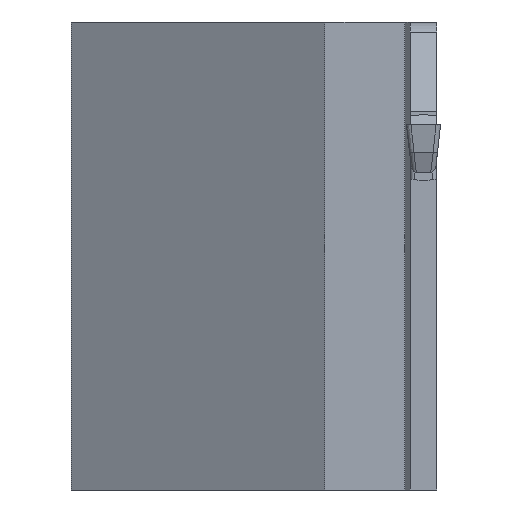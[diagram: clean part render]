
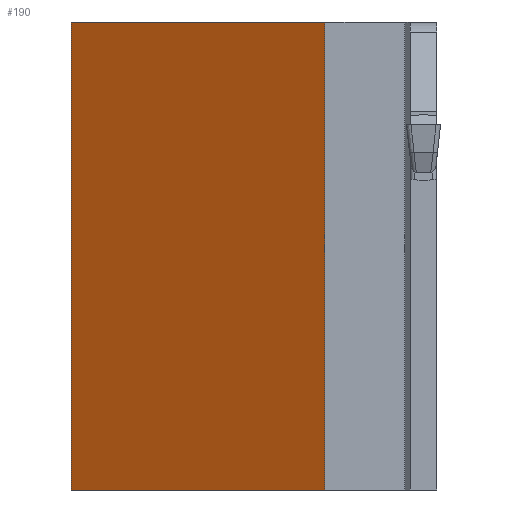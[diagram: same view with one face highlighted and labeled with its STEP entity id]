
A CAD part, left-side view. The second image highlights one B-rep face of the part: STEP entity #190.
In plain terms, the highlighted planar face has unit normal (-0.866, 0.5, 0).
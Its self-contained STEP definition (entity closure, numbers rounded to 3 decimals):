
#190=ADVANCED_FACE('',(#290),#235,.T.);
#235=PLANE('',#1217);
#290=FACE_OUTER_BOUND('',#347,.T.);
#347=EDGE_LOOP('',(#593,#594,#595,#596));
#593=ORIENTED_EDGE('',*,*,#892,.F.);
#594=ORIENTED_EDGE('',*,*,#893,.F.);
#595=ORIENTED_EDGE('',*,*,#866,.T.);
#596=ORIENTED_EDGE('',*,*,#889,.T.);
#734=VERTEX_POINT('',#1860);
#735=VERTEX_POINT('',#1862);
#755=VERTEX_POINT('',#1908);
#757=VERTEX_POINT('',#1915);
#866=EDGE_CURVE('',#735,#734,#989,.T.);
#889=EDGE_CURVE('',#734,#755,#1010,.T.);
#892=EDGE_CURVE('',#757,#755,#1012,.T.);
#893=EDGE_CURVE('',#735,#757,#1013,.T.);
#989=LINE('',#1861,#1112);
#1010=LINE('',#1909,#1133);
#1012=LINE('',#1914,#1135);
#1013=LINE('',#1916,#1136);
#1112=VECTOR('',#1419,1.);
#1133=VECTOR('',#1452,1.);
#1135=VECTOR('',#1458,1.);
#1136=VECTOR('',#1459,1.);
#1217=AXIS2_PLACEMENT_3D('',#1917,#1460,#1461);
#1419=DIRECTION('',(0.5,0.866,0.));
#1452=DIRECTION('',(0.,0.,-1.));
#1458=DIRECTION('',(0.5,0.866,0.));
#1459=DIRECTION('',(0.,0.,-1.));
#1460=DIRECTION('',(-0.866,0.5,0.));
#1461=DIRECTION('',(-0.5,-0.866,0.));
#1860=CARTESIAN_POINT('',(31.317,32.35,9.));
#1861=CARTESIAN_POINT('',(18.5,10.15,9.));
#1862=CARTESIAN_POINT('',(18.5,10.15,9.));
#1908=CARTESIAN_POINT('',(31.317,32.35,-32.));
#1909=CARTESIAN_POINT('',(31.317,32.35,9.));
#1914=CARTESIAN_POINT('',(18.5,10.15,-32.));
#1915=CARTESIAN_POINT('',(18.5,10.15,-32.));
#1916=CARTESIAN_POINT('',(18.5,10.15,9.));
#1917=CARTESIAN_POINT('',(18.5,10.15,9.));
